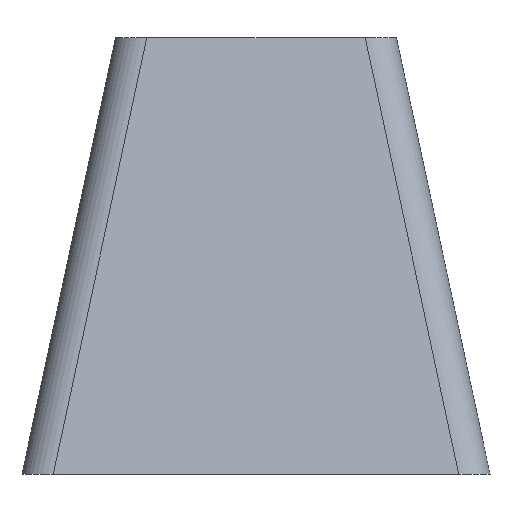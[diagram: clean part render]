
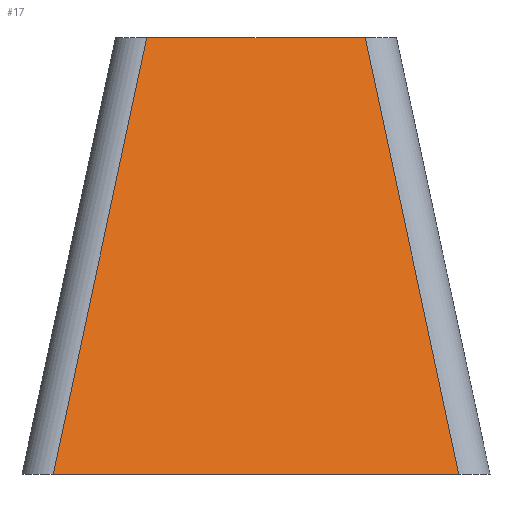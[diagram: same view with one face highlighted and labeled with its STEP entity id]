
A CAD part, left-side view. The second image highlights one B-rep face of the part: STEP entity #17.
In plain terms, the highlighted free-form (B-spline) face has degree [1, 1] with [2, 2] control points.
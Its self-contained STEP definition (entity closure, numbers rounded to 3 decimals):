
#17 = ADVANCED_FACE('',(#18),#32,.T.);
#18 = FACE_BOUND('',#19,.T.);
#19 = EDGE_LOOP('',(#20,#55,#94,#121));
#20 = ORIENTED_EDGE('',*,*,#21,.F.);
#21 = EDGE_CURVE('',#22,#24,#26,.T.);
#22 = VERTEX_POINT('',#23);
#23 = CARTESIAN_POINT('',(-30.,6.95,-22.));
#24 = VERTEX_POINT('',#25);
#25 = CARTESIAN_POINT('',(-30.,13.45,-22.));
#26 = SURFACE_CURVE('',#27,(#31,#43),.PCURVE_S1.);
#27 = LINE('',#28,#29);
#28 = CARTESIAN_POINT('',(-30.,10.2,-22.));
#29 = VECTOR('',#30,1.);
#30 = DIRECTION('',(0.,1.,0.));
#31 = PCURVE('',#32,#37);
#32 = B_SPLINE_SURFACE_WITH_KNOTS('',1,1,(
    (#33,#34)
    ,(#35,#36
    )),.UNSPECIFIED.,.F.,.F.,.F.,(2,2),(2,2),(-3.25,3.25),(0.,1.),
  .PIECEWISE_BEZIER_KNOTS.);
#33 = CARTESIAN_POINT('',(-30.,13.45,-22.));
#34 = CARTESIAN_POINT('',(-28.25,11.95,-15.01));
#35 = CARTESIAN_POINT('',(-30.,6.95,-22.));
#36 = CARTESIAN_POINT('',(-28.25,8.45,-15.01));
#37 = DEFINITIONAL_REPRESENTATION('',(#38),#42);
#38 = LINE('',#39,#40);
#39 = CARTESIAN_POINT('',(0.,0.));
#40 = VECTOR('',#41,1.);
#41 = DIRECTION('',(-1.,0.));
#42 = ( GEOMETRIC_REPRESENTATION_CONTEXT(2) 
PARAMETRIC_REPRESENTATION_CONTEXT() REPRESENTATION_CONTEXT('2D SPACE',''
  ) );
#43 = PCURVE('',#44,#49);
#44 = PLANE('',#45);
#45 = AXIS2_PLACEMENT_3D('',#46,#47,#48);
#46 = CARTESIAN_POINT('',(-29.5,13.45,-22.));
#47 = DIRECTION('',(0.,0.,1.));
#48 = DIRECTION('',(1.,0.,0.));
#49 = DEFINITIONAL_REPRESENTATION('',(#50),#54);
#50 = LINE('',#51,#52);
#51 = CARTESIAN_POINT('',(-0.5,-3.25));
#52 = VECTOR('',#53,1.);
#53 = DIRECTION('',(0.,1.));
#54 = ( GEOMETRIC_REPRESENTATION_CONTEXT(2) 
PARAMETRIC_REPRESENTATION_CONTEXT() REPRESENTATION_CONTEXT('2D SPACE',''
  ) );
#55 = ORIENTED_EDGE('',*,*,#56,.T.);
#56 = EDGE_CURVE('',#22,#57,#59,.T.);
#57 = VERTEX_POINT('',#58);
#58 = CARTESIAN_POINT('',(-28.25,8.45,-15.01));
#59 = SURFACE_CURVE('',#60,(#63,#70),.PCURVE_S1.);
#60 = B_SPLINE_CURVE_WITH_KNOTS('',1,(#61,#62),.UNSPECIFIED.,.F.,.F.,(2,
    2),(0.,1.),.PIECEWISE_BEZIER_KNOTS.);
#61 = CARTESIAN_POINT('',(-30.,6.95,-22.));
#62 = CARTESIAN_POINT('',(-28.25,8.45,-15.01));
#63 = PCURVE('',#32,#64);
#64 = DEFINITIONAL_REPRESENTATION('',(#65),#69);
#65 = LINE('',#66,#67);
#66 = CARTESIAN_POINT('',(3.25,0.));
#67 = VECTOR('',#68,1.);
#68 = DIRECTION('',(0.,1.));
#69 = ( GEOMETRIC_REPRESENTATION_CONTEXT(2) 
PARAMETRIC_REPRESENTATION_CONTEXT() REPRESENTATION_CONTEXT('2D SPACE',''
  ) );
#70 = PCURVE('',#71,#88);
#71 = B_SPLINE_SURFACE_WITH_KNOTS('',7,1,(
    (#72,#73)
    ,(#74,#75)
    ,(#76,#77)
    ,(#78,#79)
    ,(#80,#81)
    ,(#82,#83)
    ,(#84,#85)
    ,(#86,#87
    )),.UNSPECIFIED.,.F.,.F.,.F.,(8,8),(2,2),(3.142,
    4.712),(0.,1.),.PIECEWISE_BEZIER_KNOTS.);
#72 = CARTESIAN_POINT('',(-30.,6.95,-22.));
#73 = CARTESIAN_POINT('',(-28.25,8.45,-15.01));
#74 = CARTESIAN_POINT('',(-30.,6.838,-22.));
#75 = CARTESIAN_POINT('',(-28.25,8.338,-15.01));
#76 = CARTESIAN_POINT('',(-29.971,6.726,-22.));
#77 = CARTESIAN_POINT('',(-28.221,8.226,-15.01));
#78 = CARTESIAN_POINT('',(-29.912,6.623,-22.)
  );
#79 = CARTESIAN_POINT('',(-28.162,8.123,-15.01)
  );
#80 = CARTESIAN_POINT('',(-29.827,6.538,-22.));
#81 = CARTESIAN_POINT('',(-28.077,8.038,-15.01));
#82 = CARTESIAN_POINT('',(-29.724,6.479,-22.
    ));
#83 = CARTESIAN_POINT('',(-27.974,7.979,-15.01));
#84 = CARTESIAN_POINT('',(-29.612,6.45,-22.));
#85 = CARTESIAN_POINT('',(-27.862,7.95,-15.01));
#86 = CARTESIAN_POINT('',(-29.5,6.45,-22.));
#87 = CARTESIAN_POINT('',(-27.75,7.95,-15.01));
#88 = DEFINITIONAL_REPRESENTATION('',(#89),#93);
#89 = LINE('',#90,#91);
#90 = CARTESIAN_POINT('',(3.142,0.));
#91 = VECTOR('',#92,1.);
#92 = DIRECTION('',(0.,1.));
#93 = ( GEOMETRIC_REPRESENTATION_CONTEXT(2) 
PARAMETRIC_REPRESENTATION_CONTEXT() REPRESENTATION_CONTEXT('2D SPACE',''
  ) );
#94 = ORIENTED_EDGE('',*,*,#95,.T.);
#95 = EDGE_CURVE('',#57,#96,#98,.T.);
#96 = VERTEX_POINT('',#97);
#97 = CARTESIAN_POINT('',(-28.25,11.95,-15.01));
#98 = SURFACE_CURVE('',#99,(#103,#109),.PCURVE_S1.);
#99 = LINE('',#100,#101);
#100 = CARTESIAN_POINT('',(-28.25,10.2,-15.01));
#101 = VECTOR('',#102,1.);
#102 = DIRECTION('',(0.,1.,0.));
#103 = PCURVE('',#32,#104);
#104 = DEFINITIONAL_REPRESENTATION('',(#105),#108);
#105 = B_SPLINE_CURVE_WITH_KNOTS('',1,(#106,#107),.UNSPECIFIED.,.F.,.F.,
  (2,2),(-1.75,1.75),.PIECEWISE_BEZIER_KNOTS.);
#106 = CARTESIAN_POINT('',(3.25,1.));
#107 = CARTESIAN_POINT('',(-3.25,1.));
#108 = ( GEOMETRIC_REPRESENTATION_CONTEXT(2) 
PARAMETRIC_REPRESENTATION_CONTEXT() REPRESENTATION_CONTEXT('2D SPACE',''
  ) );
#109 = PCURVE('',#110,#115);
#110 = PLANE('',#111);
#111 = AXIS2_PLACEMENT_3D('',#112,#113,#114);
#112 = CARTESIAN_POINT('',(-27.75,8.45,-15.01));
#113 = DIRECTION('',(0.,0.,1.));
#114 = DIRECTION('',(1.,0.,0.));
#115 = DEFINITIONAL_REPRESENTATION('',(#116),#120);
#116 = LINE('',#117,#118);
#117 = CARTESIAN_POINT('',(-0.5,1.75));
#118 = VECTOR('',#119,1.);
#119 = DIRECTION('',(0.,1.));
#120 = ( GEOMETRIC_REPRESENTATION_CONTEXT(2) 
PARAMETRIC_REPRESENTATION_CONTEXT() REPRESENTATION_CONTEXT('2D SPACE',''
  ) );
#121 = ORIENTED_EDGE('',*,*,#122,.F.);
#122 = EDGE_CURVE('',#24,#96,#123,.T.);
#123 = SURFACE_CURVE('',#124,(#127,#134),.PCURVE_S1.);
#124 = B_SPLINE_CURVE_WITH_KNOTS('',1,(#125,#126),.UNSPECIFIED.,.F.,.F.,
  (2,2),(0.,1.),.PIECEWISE_BEZIER_KNOTS.);
#125 = CARTESIAN_POINT('',(-30.,13.45,-22.));
#126 = CARTESIAN_POINT('',(-28.25,11.95,-15.01));
#127 = PCURVE('',#32,#128);
#128 = DEFINITIONAL_REPRESENTATION('',(#129),#133);
#129 = LINE('',#130,#131);
#130 = CARTESIAN_POINT('',(-3.25,0.));
#131 = VECTOR('',#132,1.);
#132 = DIRECTION('',(0.,1.));
#133 = ( GEOMETRIC_REPRESENTATION_CONTEXT(2) 
PARAMETRIC_REPRESENTATION_CONTEXT() REPRESENTATION_CONTEXT('2D SPACE',''
  ) );
#134 = PCURVE('',#135,#152);
#135 = B_SPLINE_SURFACE_WITH_KNOTS('',7,1,(
    (#136,#137)
    ,(#138,#139)
    ,(#140,#141)
    ,(#142,#143)
    ,(#144,#145)
    ,(#146,#147)
    ,(#148,#149)
    ,(#150,#151
    )),.UNSPECIFIED.,.F.,.F.,.F.,(8,8),(2,2),(1.571,
    3.142),(0.,1.),.PIECEWISE_BEZIER_KNOTS.);
#136 = CARTESIAN_POINT('',(-29.5,13.95,-22.));
#137 = CARTESIAN_POINT('',(-27.75,12.45,-15.01));
#138 = CARTESIAN_POINT('',(-29.612,13.95,-22.));
#139 = CARTESIAN_POINT('',(-27.862,12.45,-15.01));
#140 = CARTESIAN_POINT('',(-29.724,13.921,-22.));
#141 = CARTESIAN_POINT('',(-27.974,12.421,-15.01));
#142 = CARTESIAN_POINT('',(-29.827,13.862,-22.));
#143 = CARTESIAN_POINT('',(-28.077,12.362,-15.01));
#144 = CARTESIAN_POINT('',(-29.912,13.777,
    -22.));
#145 = CARTESIAN_POINT('',(-28.162,12.277,
    -15.01));
#146 = CARTESIAN_POINT('',(-29.971,13.674,-22.));
#147 = CARTESIAN_POINT('',(-28.221,12.174,-15.01));
#148 = CARTESIAN_POINT('',(-30.,13.562,-22.));
#149 = CARTESIAN_POINT('',(-28.25,12.062,-15.01));
#150 = CARTESIAN_POINT('',(-30.,13.45,-22.));
#151 = CARTESIAN_POINT('',(-28.25,11.95,-15.01));
#152 = DEFINITIONAL_REPRESENTATION('',(#153),#157);
#153 = LINE('',#154,#155);
#154 = CARTESIAN_POINT('',(3.142,0.));
#155 = VECTOR('',#156,1.);
#156 = DIRECTION('',(0.,1.));
#157 = ( GEOMETRIC_REPRESENTATION_CONTEXT(2) 
PARAMETRIC_REPRESENTATION_CONTEXT() REPRESENTATION_CONTEXT('2D SPACE',''
  ) );
